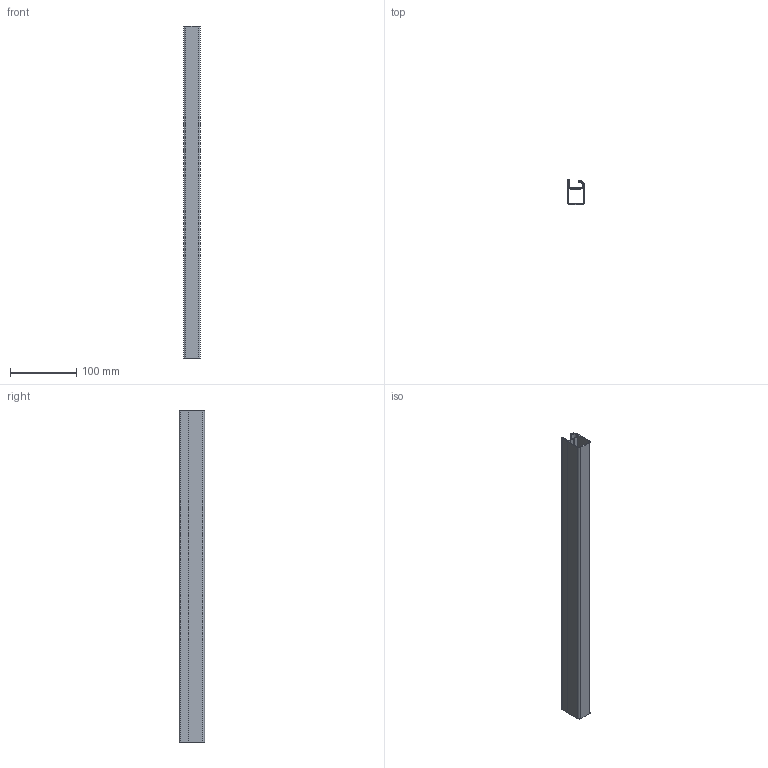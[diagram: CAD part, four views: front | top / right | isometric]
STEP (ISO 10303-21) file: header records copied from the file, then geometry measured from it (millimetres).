
FILE_DESCRIPTION (( 'STEP AP214' ), '1' );
FILE_NAME ('A21618.step', '2024-12-03T16:11:05', ( '' ), ( '' ), 'SwSTEP 2.0', 'SolidWorks 2023', '' );
FILE_SCHEMA (( 'AUTOMOTIVE_DESIGN' ));
Length unit declared in the file: millimetre
Products named in the file (1): A21618
Bounding box: 25 x 38 x 500 mm (x, y, z)
Volume: 87684.3 mm3; surface area: 145244.4 mm2
Topology: 1 solids, 1 shells, 36 faces, 102 edges, 68 vertices
Faces by surface type: plane 20, cylinder 16
Entity records: 1201 total; most frequent: DIRECTION 208, CARTESIAN_POINT 207, ORIENTED_EDGE 204, EDGE_CURVE 102, VECTOR 70, LINE 70, AXIS2_PLACEMENT_3D 69, VERTEX_POINT 68
